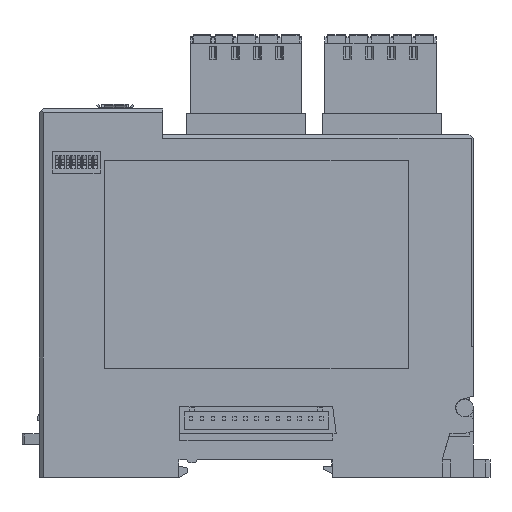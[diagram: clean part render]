
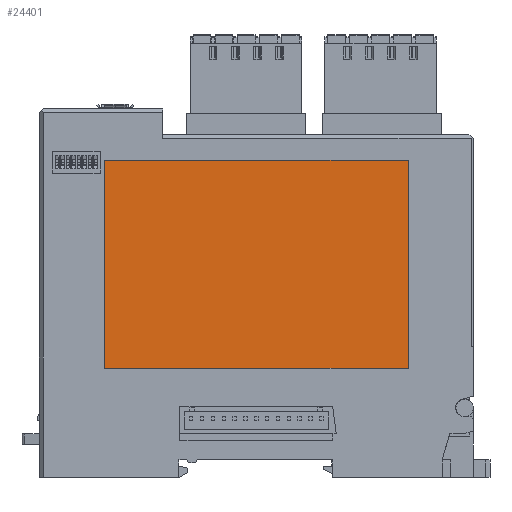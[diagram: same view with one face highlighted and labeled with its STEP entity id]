
A CAD part, left-side view. The second image highlights one B-rep face of the part: STEP entity #24401.
In plain terms, the highlighted planar face has unit normal (-1, 0, 0).
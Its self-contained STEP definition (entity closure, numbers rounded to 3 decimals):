
#2605 = ORIENTED_EDGE ( 'NONE', *, *, #27078, .T. ) ;
#2611 = VERTEX_POINT ( 'NONE', #59040 ) ;
#3453 = DIRECTION ( 'NONE',  ( 0., 0., 1. ) ) ;
#4307 = PLANE ( 'NONE',  #69499 ) ;
#5381 = DIRECTION ( 'NONE',  ( 0., 0., 1. ) ) ;
#7845 = VECTOR ( 'NONE', #40091, 1000. ) ;
#8104 = DIRECTION ( 'NONE',  ( 0., 0., -1. ) ) ;
#12184 = CARTESIAN_POINT ( 'NONE',  ( -14.7, 35.01, -17.46 ) ) ;
#12364 = LINE ( 'NONE', #59442, #55568 ) ;
#12787 = VERTEX_POINT ( 'NONE', #12184 ) ;
#13940 = CARTESIAN_POINT ( 'NONE',  ( -14.7, 35.01, -17.46 ) ) ;
#16097 = DIRECTION ( 'NONE',  ( -1., 0., 0. ) ) ;
#19129 = EDGE_LOOP ( 'NONE', ( #75346, #42871, #48244, #2605 ) ) ;
#24401 = ADVANCED_FACE ( 'NONE', ( #43993 ), #4307, .T. ) ;
#27078 = EDGE_CURVE ( 'NONE', #72664, #12787, #55638, .T. ) ;
#30278 = EDGE_CURVE ( 'NONE', #66262, #72664, #66912, .T. ) ;
#33688 = EDGE_CURVE ( 'NONE', #12787, #2611, #74543, .T. ) ;
#35038 = VECTOR ( 'NONE', #8104, 1000. ) ;
#35539 = VECTOR ( 'NONE', #73009, 1000. ) ;
#40091 = DIRECTION ( 'NONE',  ( 0., -1., 0. ) ) ;
#42871 = ORIENTED_EDGE ( 'NONE', *, *, #71711, .T. ) ;
#43993 = FACE_OUTER_BOUND ( 'NONE', #19129, .T. ) ;
#45403 = CARTESIAN_POINT ( 'NONE',  ( -14.7, 35.01, 30.55 ) ) ;
#48244 = ORIENTED_EDGE ( 'NONE', *, *, #30278, .T. ) ;
#49530 = CARTESIAN_POINT ( 'NONE',  ( -14.7, 35.01, -17.46 ) ) ;
#51789 = CARTESIAN_POINT ( 'NONE',  ( -14.7, -35., 30.55 ) ) ;
#55568 = VECTOR ( 'NONE', #5381, 1000. ) ;
#55638 = LINE ( 'NONE', #49530, #35038 ) ;
#59040 = CARTESIAN_POINT ( 'NONE',  ( -14.7, -35., -17.46 ) ) ;
#59442 = CARTESIAN_POINT ( 'NONE',  ( -14.7, -35., -17.46 ) ) ;
#60769 = CARTESIAN_POINT ( 'NONE',  ( -14.7, 35.01, 30.55 ) ) ;
#66262 = VERTEX_POINT ( 'NONE', #51789 ) ;
#66912 = LINE ( 'NONE', #60769, #35539 ) ;
#69499 = AXIS2_PLACEMENT_3D ( 'NONE', #82845, #16097, #3453 ) ;
#71711 = EDGE_CURVE ( 'NONE', #2611, #66262, #12364, .T. ) ;
#72664 = VERTEX_POINT ( 'NONE', #45403 ) ;
#73009 = DIRECTION ( 'NONE',  ( 0., 1., 0. ) ) ;
#74543 = LINE ( 'NONE', #13940, #7845 ) ;
#75346 = ORIENTED_EDGE ( 'NONE', *, *, #33688, .T. ) ;
#82845 = CARTESIAN_POINT ( 'NONE',  ( -14.7, 0., 0. ) ) ;
